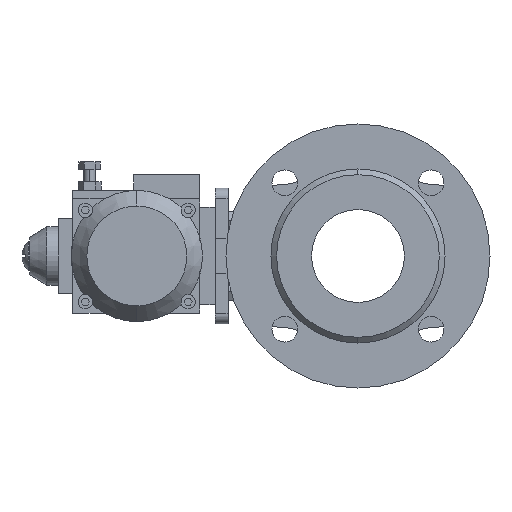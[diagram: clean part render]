
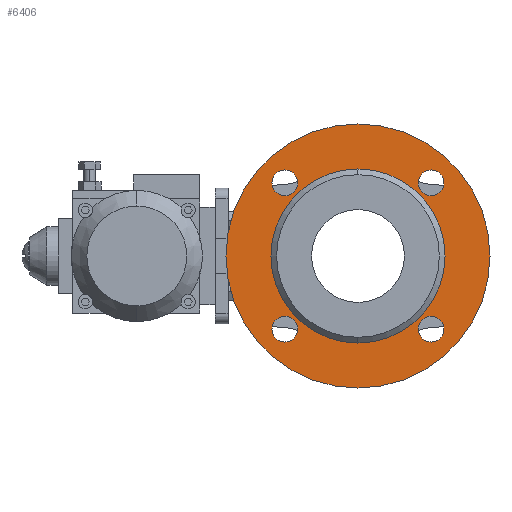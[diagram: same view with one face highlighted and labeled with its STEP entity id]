
A CAD part, left-side view. The second image highlights one B-rep face of the part: STEP entity #6406.
In plain terms, the highlighted planar face has unit normal (-1, 0, 0).
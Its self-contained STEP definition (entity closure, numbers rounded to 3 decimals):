
#1711=CARTESIAN_POINT('',(-68.,0.,0.));
#1712=DIRECTION('',(-1.,0.,0.));
#1713=DIRECTION('',(0.,0.,1.));
#1714=AXIS2_PLACEMENT_3D('',#1711,#1712,#1713);
#1716=CARTESIAN_POINT('',(-68.,0.,0.));
#1717=DIRECTION('',(-1.,0.,0.));
#1718=DIRECTION('',(0.,0.,-1.));
#1719=AXIS2_PLACEMENT_3D('',#1716,#1717,#1718);
#1721=CARTESIAN_POINT('',(-68.,0.,0.));
#1722=DIRECTION('',(-1.,0.,0.));
#1723=DIRECTION('',(0.,0.,1.));
#1724=AXIS2_PLACEMENT_3D('',#1721,#1722,#1723);
#1726=CARTESIAN_POINT('',(-68.,0.,0.));
#1727=DIRECTION('',(-1.,0.,0.));
#1728=DIRECTION('',(0.,0.,-1.));
#1729=AXIS2_PLACEMENT_3D('',#1726,#1727,#1728);
#1731=CARTESIAN_POINT('',(-68.,51.265,-51.265));
#1732=DIRECTION('',(-1.,0.,0.));
#1733=DIRECTION('',(0.,0.,1.));
#1734=AXIS2_PLACEMENT_3D('',#1731,#1732,#1733);
#1736=CARTESIAN_POINT('',(-68.,51.265,-51.265));
#1737=DIRECTION('',(-1.,0.,0.));
#1738=DIRECTION('',(0.,0.,-1.));
#1739=AXIS2_PLACEMENT_3D('',#1736,#1737,#1738);
#1741=CARTESIAN_POINT('',(-68.,-51.265,-51.265));
#1742=DIRECTION('',(-1.,0.,0.));
#1743=DIRECTION('',(0.,1.,0.));
#1744=AXIS2_PLACEMENT_3D('',#1741,#1742,#1743);
#1746=CARTESIAN_POINT('',(-68.,-51.265,-51.265));
#1747=DIRECTION('',(-1.,0.,0.));
#1748=DIRECTION('',(0.,-1.,0.));
#1749=AXIS2_PLACEMENT_3D('',#1746,#1747,#1748);
#1751=CARTESIAN_POINT('',(-68.,-51.265,51.265));
#1752=DIRECTION('',(-1.,0.,0.));
#1753=DIRECTION('',(0.,0.,-1.));
#1754=AXIS2_PLACEMENT_3D('',#1751,#1752,#1753);
#1756=CARTESIAN_POINT('',(-68.,-51.265,51.265));
#1757=DIRECTION('',(-1.,0.,0.));
#1758=DIRECTION('',(0.,0.,1.));
#1759=AXIS2_PLACEMENT_3D('',#1756,#1757,#1758);
#1761=CARTESIAN_POINT('',(-68.,51.265,51.265));
#1762=DIRECTION('',(-1.,0.,0.));
#1763=DIRECTION('',(0.,-1.,0.));
#1764=AXIS2_PLACEMENT_3D('',#1761,#1762,#1763);
#1766=CARTESIAN_POINT('',(-68.,51.265,51.265));
#1767=DIRECTION('',(-1.,0.,0.));
#1768=DIRECTION('',(0.,1.,0.));
#1769=AXIS2_PLACEMENT_3D('',#1766,#1767,#1768);
#3265=CARTESIAN_POINT('',(-68.,0.,92.5));
#3266=CARTESIAN_POINT('',(-68.,0.,-92.5));
#3267=VERTEX_POINT('',#3265);
#3268=VERTEX_POINT('',#3266);
#3277=CARTESIAN_POINT('',(-68.,0.,61.));
#3278=CARTESIAN_POINT('',(-68.,0.,-61.));
#3279=VERTEX_POINT('',#3277);
#3280=VERTEX_POINT('',#3278);
#3334=CARTESIAN_POINT('',(-68.,51.265,-42.265));
#3335=CARTESIAN_POINT('',(-68.,51.265,-60.265));
#3336=VERTEX_POINT('',#3334);
#3337=VERTEX_POINT('',#3335);
#3342=CARTESIAN_POINT('',(-68.,-42.265,-51.265));
#3343=CARTESIAN_POINT('',(-68.,-60.265,-51.265));
#3344=VERTEX_POINT('',#3342);
#3345=VERTEX_POINT('',#3343);
#3350=CARTESIAN_POINT('',(-68.,-51.265,42.265));
#3351=CARTESIAN_POINT('',(-68.,-51.265,60.265));
#3352=VERTEX_POINT('',#3350);
#3353=VERTEX_POINT('',#3351);
#3358=CARTESIAN_POINT('',(-68.,42.265,51.265));
#3359=CARTESIAN_POINT('',(-68.,60.265,51.265));
#3360=VERTEX_POINT('',#3358);
#3361=VERTEX_POINT('',#3359);
#6367=CARTESIAN_POINT('',(-68.,0.,0.));
#6368=DIRECTION('',(-1.,0.,0.));
#6369=DIRECTION('',(0.,0.,1.));
#6370=AXIS2_PLACEMENT_3D('',#6367,#6368,#6369);
#6371=PLANE('',#6370);
#6373=ORIENTED_EDGE('',*,*,#6372,.F.);
#6375=ORIENTED_EDGE('',*,*,#6374,.F.);
#6376=EDGE_LOOP('',(#6373,#6375));
#6377=FACE_OUTER_BOUND('',#6376,.F.);
#6378=ORIENTED_EDGE('',*,*,#6347,.T.);
#6379=ORIENTED_EDGE('',*,*,#6361,.T.);
#6380=EDGE_LOOP('',(#6378,#6379));
#6381=FACE_BOUND('',#6380,.F.);
#6383=ORIENTED_EDGE('',*,*,#6382,.T.);
#6385=ORIENTED_EDGE('',*,*,#6384,.T.);
#6386=EDGE_LOOP('',(#6383,#6385));
#6387=FACE_BOUND('',#6386,.F.);
#6389=ORIENTED_EDGE('',*,*,#6388,.T.);
#6391=ORIENTED_EDGE('',*,*,#6390,.T.);
#6392=EDGE_LOOP('',(#6389,#6391));
#6393=FACE_BOUND('',#6392,.F.);
#6395=ORIENTED_EDGE('',*,*,#6394,.T.);
#6397=ORIENTED_EDGE('',*,*,#6396,.T.);
#6398=EDGE_LOOP('',(#6395,#6397));
#6399=FACE_BOUND('',#6398,.F.);
#6401=ORIENTED_EDGE('',*,*,#6400,.T.);
#6403=ORIENTED_EDGE('',*,*,#6402,.T.);
#6404=EDGE_LOOP('',(#6401,#6403));
#6405=FACE_BOUND('',#6404,.F.);
#6406=ADVANCED_FACE('',(#6377,#6381,#6387,#6393,#6399,#6405),#6371,.T.);
#1715=CIRCLE('',#1714,92.5);
#1720=CIRCLE('',#1719,92.5);
#1725=CIRCLE('',#1724,61.);
#1730=CIRCLE('',#1729,61.);
#1735=CIRCLE('',#1734,9.);
#1740=CIRCLE('',#1739,9.);
#1745=CIRCLE('',#1744,9.);
#1750=CIRCLE('',#1749,9.);
#1755=CIRCLE('',#1754,9.);
#1760=CIRCLE('',#1759,9.);
#1765=CIRCLE('',#1764,9.);
#1770=CIRCLE('',#1769,9.);
#6347=EDGE_CURVE('',#3279,#3280,#1725,.T.);
#6361=EDGE_CURVE('',#3280,#3279,#1730,.T.);
#6372=EDGE_CURVE('',#3267,#3268,#1715,.T.);
#6374=EDGE_CURVE('',#3268,#3267,#1720,.T.);
#6382=EDGE_CURVE('',#3336,#3337,#1735,.T.);
#6384=EDGE_CURVE('',#3337,#3336,#1740,.T.);
#6388=EDGE_CURVE('',#3344,#3345,#1745,.T.);
#6390=EDGE_CURVE('',#3345,#3344,#1750,.T.);
#6394=EDGE_CURVE('',#3352,#3353,#1755,.T.);
#6396=EDGE_CURVE('',#3353,#3352,#1760,.T.);
#6400=EDGE_CURVE('',#3360,#3361,#1765,.T.);
#6402=EDGE_CURVE('',#3361,#3360,#1770,.T.);
